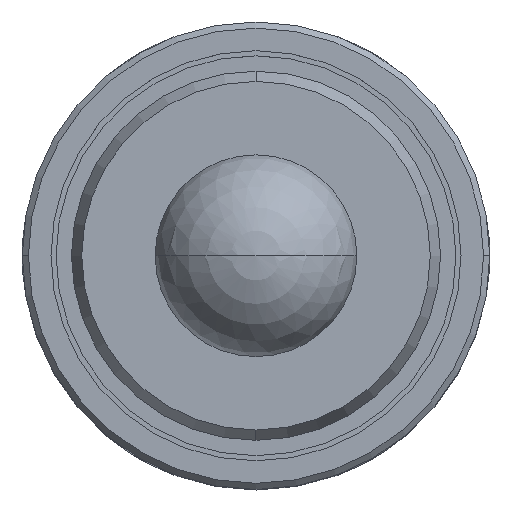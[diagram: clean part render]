
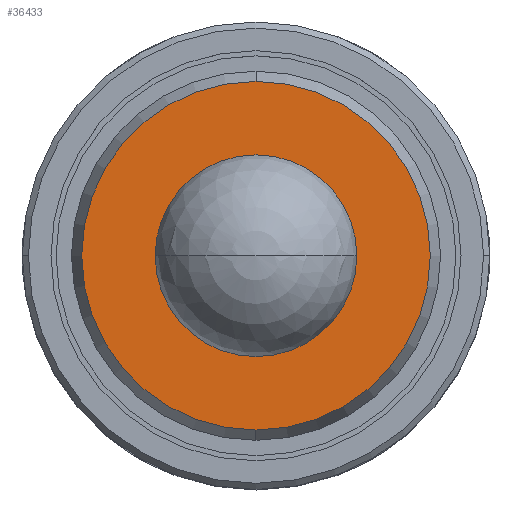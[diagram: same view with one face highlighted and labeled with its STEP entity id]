
A CAD part, top view. The second image highlights one B-rep face of the part: STEP entity #36433.
In plain terms, the highlighted planar face has unit normal (0, 0, 1).
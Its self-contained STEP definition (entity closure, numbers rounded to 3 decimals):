
#15042=CARTESIAN_POINT('',(0.,0.,151.9));
#15043=DIRECTION('',(0.,0.,-1.));
#15044=DIRECTION('',(1.,0.,0.));
#15045=AXIS2_PLACEMENT_3D('',#15042,#15043,#15044);
#15047=CARTESIAN_POINT('',(0.,0.,151.9));
#15048=DIRECTION('',(0.,0.,-1.));
#15049=DIRECTION('',(-1.,0.,0.));
#15050=AXIS2_PLACEMENT_3D('',#15047,#15048,#15049);
#15062=CARTESIAN_POINT('',(0.,0.,151.9));
#15063=DIRECTION('',(0.,0.,1.));
#15064=DIRECTION('',(0.,-1.,0.));
#15065=AXIS2_PLACEMENT_3D('',#15062,#15063,#15064);
#15067=CARTESIAN_POINT('',(0.,0.,151.9));
#15068=DIRECTION('',(0.,0.,1.));
#15069=DIRECTION('',(0.,1.,0.));
#15070=AXIS2_PLACEMENT_3D('',#15067,#15068,#15069);
#19538=CARTESIAN_POINT('',(49.187,0.,151.9));
#19539=CARTESIAN_POINT('',(-49.187,0.,151.9));
#19540=VERTEX_POINT('',#19538);
#19541=VERTEX_POINT('',#19539);
#19548=CARTESIAN_POINT('',(0.,-85.,151.9));
#19549=CARTESIAN_POINT('',(0.,85.,151.9));
#19550=VERTEX_POINT('',#19548);
#19551=VERTEX_POINT('',#19549);
#36416=CARTESIAN_POINT('',(0.,0.,151.9));
#36417=DIRECTION('',(0.,0.,1.));
#36418=DIRECTION('',(1.,0.,0.));
#36419=AXIS2_PLACEMENT_3D('',#36416,#36417,#36418);
#36420=PLANE('',#36419);
#36422=ORIENTED_EDGE('',*,*,#36421,.F.);
#36424=ORIENTED_EDGE('',*,*,#36423,.F.);
#36425=EDGE_LOOP('',(#36422,#36424));
#36426=FACE_OUTER_BOUND('',#36425,.F.);
#36428=ORIENTED_EDGE('',*,*,#36427,.F.);
#36430=ORIENTED_EDGE('',*,*,#36429,.F.);
#36431=EDGE_LOOP('',(#36428,#36430));
#36432=FACE_BOUND('',#36431,.F.);
#36433=ADVANCED_FACE('',(#36426,#36432),#36420,.T.);
#15046=CIRCLE('',#15045,49.187);
#15051=CIRCLE('',#15050,49.187);
#15066=CIRCLE('',#15065,85.);
#15071=CIRCLE('',#15070,85.);
#36421=EDGE_CURVE('',#19550,#19551,#15066,.T.);
#36423=EDGE_CURVE('',#19551,#19550,#15071,.T.);
#36427=EDGE_CURVE('',#19540,#19541,#15046,.T.);
#36429=EDGE_CURVE('',#19541,#19540,#15051,.T.);
